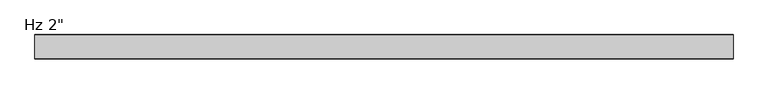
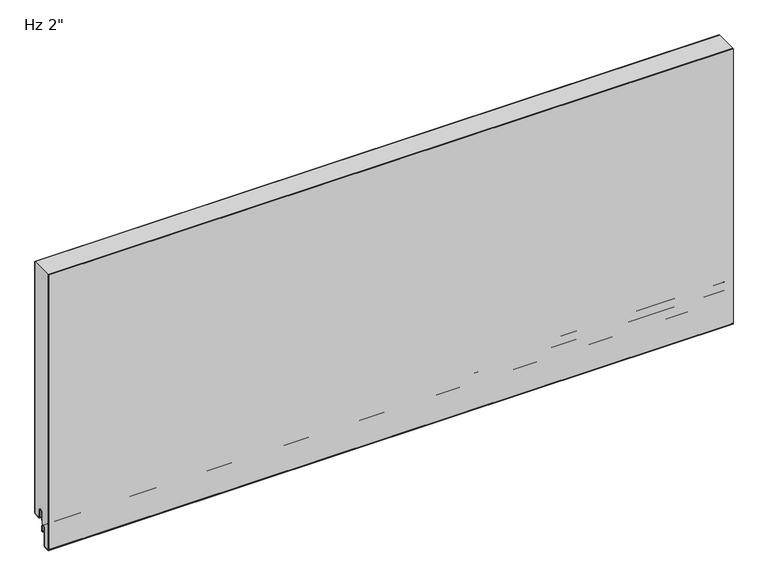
"""IFC4 building model written with IfcOpenShell, lengths in millimetres: plate geometry."""

from ifc_helpers import new_model, si_unit, point, frame, frame_2d, origin, place, context, project, spatial, polyline, circle_curve, trimmed, segment, composite_curve, outline, extrude, source, transform, mapped, element, save


def plate_7ae7a847(model_context):
    return source(origin(), model_context, "Body", "SweptSolid", [
        extrude(outline(composite_curve([segment(polyline([(-49.8, -50.6719361), (-49.8, 570.0), (-1.0, 570.0), (-1.0, 3.175)]), True, "CONTINUOUS"), segment(trimmed(circle_curve(frame_2d((-2.38125, 3.175)), 1.38125), [point((-1.0, 3.175))], [point((-2.38125, 1.79375))], False, "CARTESIAN"), True, "CONTINUOUS"), segment(polyline([(-2.38125, 1.79375), (-15.08125, 1.79375)]), True, "CONTINUOUS"), segment(trimmed(circle_curve(frame_2d((-15.08125, 3.175)), 1.38125), [point((-15.08125, 1.79375))], [point((-16.4625, 3.175))], False, "CARTESIAN"), True, "CONTINUOUS"), segment(polyline([(-16.4625, 3.175), (-16.4625, 19.05)]), True, "CONTINUOUS"), segment(trimmed(circle_curve(frame_2d((-21.43125, 19.05)), 4.96875), [point((-16.4625, 19.05))], [point((-26.4, 19.05))], True, "CARTESIAN"), True, "CONTINUOUS"), segment(polyline([(-26.4, 19.05), (-26.4, -6.9375), (-30.95625, -6.9375)]), True, "CONTINUOUS"), segment(trimmed(circle_curve(frame_2d((-30.95625, -11.90625)), 4.96875), [point((-30.95625, -6.9375))], [point((-35.925, -11.90625))], True, "CARTESIAN"), True, "CONTINUOUS"), segment(polyline([(-35.925, -11.90625), (-35.925, -50.0895546)]), True, "CONTINUOUS"), segment(trimmed(circle_curve(frame_2d((-37.30625, -50.0895546)), 1.38125), [point((-35.925, -50.0895546))], [point((-37.233961, -51.4689117))], False, "CARTESIAN"), True, "CONTINUOUS"), segment(polyline([(-37.233961, -51.4689117), (-48.346461, -52.0512931)]), True, "CONTINUOUS"), segment(trimmed(circle_curve(frame_2d((-48.41875, -50.6719361)), 1.38125), [point((-48.346461, -52.0512931))], [point((-49.8, -50.6719361))], False, "CARTESIAN"), True, "CONTINUOUS")], self_intersect=False)), frame((-730.0, 0.0, 0.0), z_axis=(1.0, 0.0, 0.0), x_axis=(0.0, 1.0, 0.0)), (0.0, 0.0, 1.0), 1460.0),
        extrude(outline(composite_curve([segment(polyline([(-25.4, 0.79375), (-26.4, 0.79375), (-26.4, 19.05)]), True, "CONTINUOUS"), segment(trimmed(circle_curve(frame_2d((-21.43125, 19.05)), 4.96875), [point((-26.4, 19.05))], [point((-16.4625, 19.05))], False, "CARTESIAN"), True, "CONTINUOUS"), segment(polyline([(-16.4625, 19.05), (-16.4625, 3.175)]), True, "CONTINUOUS"), segment(trimmed(circle_curve(frame_2d((-15.08125, 3.175)), 1.38125), [point((-16.4625, 3.175))], [point((-15.08125, 1.79375))], True, "CARTESIAN"), True, "CONTINUOUS"), segment(polyline([(-15.08125, 1.79375), (-2.38125, 1.79375)]), True, "CONTINUOUS"), segment(trimmed(circle_curve(frame_2d((-2.38125, 3.175)), 1.38125), [point((-2.38125, 1.79375))], [point((-1.0, 3.175))], True, "CARTESIAN"), True, "CONTINUOUS"), segment(polyline([(-1.0, 3.175), (-1.0, 570.0), (0.0, 570.0), (0.0, 3.175)]), True, "CONTINUOUS"), segment(trimmed(circle_curve(frame_2d((-2.38125, 3.175)), 2.38125), [point((0.0, 3.175))], [point((-2.38125, 0.79375))], False, "CARTESIAN"), True, "CONTINUOUS"), segment(polyline([(-2.38125, 0.79375), (-15.08125, 0.79375)]), True, "CONTINUOUS"), segment(trimmed(circle_curve(frame_2d((-15.08125, 3.175)), 2.38125), [point((-15.08125, 0.79375))], [point((-17.4625, 3.175))], False, "CARTESIAN"), True, "CONTINUOUS"), segment(polyline([(-17.4625, 3.175), (-17.4625, 19.05)]), True, "CONTINUOUS"), segment(trimmed(circle_curve(frame_2d((-21.43125, 19.05)), 3.96875), [point((-17.4625, 19.05))], [point((-25.4, 19.05))], True, "CARTESIAN"), True, "CONTINUOUS"), segment(polyline([(-25.4, 19.05), (-25.4, 0.79375)]), True, "CONTINUOUS")], self_intersect=False)), frame((-730.0, 0.0, 0.0), z_axis=(1.0, 0.0, 0.0), x_axis=(0.0, 1.0, 0.0)), (0.0, 0.0, 1.0), 1460.0),
        extrude(outline(composite_curve([segment(trimmed(circle_curve(frame_2d((-26.19375, -23.2314549)), 0.79375), [point((-25.4, -23.2314549))], [point((-26.9875, -23.2314549))], False, "CARTESIAN"), True, "CONTINUOUS"), segment(polyline([(-26.9875, -23.2314549), (-26.9875, -11.9205174)]), True, "CONTINUOUS"), segment(trimmed(circle_curve(frame_2d((-30.95625, -11.9205174)), 3.96875), [point((-26.9875, -11.9205174))], [point((-34.925, -11.9205174))], True, "CARTESIAN"), True, "CONTINUOUS"), segment(polyline([(-34.925, -11.9205174), (-34.925, -50.1038221)]), True, "CONTINUOUS"), segment(trimmed(circle_curve(frame_2d((-37.30625, -50.1038221)), 2.38125), [point((-34.925, -50.1038221))], [point((-37.181625, -52.4818086))], False, "CARTESIAN"), True, "CONTINUOUS"), segment(polyline([(-37.181625, -52.4818086), (-48.294125, -53.0641901)]), True, "CONTINUOUS"), segment(trimmed(circle_curve(frame_2d((-48.41875, -50.6862035)), 2.38125), [point((-48.294125, -53.0641901))], [point((-50.8, -50.6862035))], False, "CARTESIAN"), True, "CONTINUOUS"), segment(polyline([(-50.8, -50.6862035), (-50.8, 570.0), (-49.8, 570.0), (-49.8, -50.6862035)]), True, "CONTINUOUS"), segment(trimmed(circle_curve(frame_2d((-48.41875, -50.6862035)), 1.38125), [point((-49.8, -50.6862035))], [point((-48.346461, -52.0655606))], True, "CARTESIAN"), True, "CONTINUOUS"), segment(polyline([(-48.346461, -52.0655606), (-37.233961, -51.4831791)]), True, "CONTINUOUS"), segment(trimmed(circle_curve(frame_2d((-37.30625, -50.1038221)), 1.38125), [point((-37.233961, -51.4831791))], [point((-35.925, -50.1038221))], True, "CARTESIAN"), True, "CONTINUOUS"), segment(polyline([(-35.925, -50.1038221), (-35.925, -11.9205174)]), True, "CONTINUOUS"), segment(trimmed(circle_curve(frame_2d((-30.95625, -11.9205174)), 4.96875), [point((-35.925, -11.9205174))], [point((-25.9875, -11.9205174))], False, "CARTESIAN"), True, "CONTINUOUS"), segment(polyline([(-25.9875, -11.9205174), (-26.19375, -13.5080174), (-25.4, -13.5080174), (-25.4, -23.2314549)]), True, "CONTINUOUS")], self_intersect=False)), frame((-730.0, 0.0, 0.0), z_axis=(1.0, 0.0, 0.0), x_axis=(0.0, 1.0, 0.0)), (0.0, 0.0, 1.0), 1460.0),
    ])


if __name__ == "__main__":
    model = new_model("IFC4")
    model_context = context("Model", 3, world=origin())
    ifc_project = project(units=[si_unit("LENGTHUNIT", "METRE", prefix="MILLI")], contexts=[model_context])
    site = spatial("IfcSite", under=ifc_project)
    building = spatial("IfcBuilding", under=site)
    placement = place(None, origin())
    plate_shape = plate_7ae7a847(model_context)
    element("IfcPlate", 1, ObjectType="KIP-36-DWTR-R19-CP-Hz-F : Hz 2\"", at=placement, inside=building, context=model_context, shape_type="MappedRepresentation", body=[
        mapped(plate_shape, transform((0.0, 0.0, 0.0), x_axis=(1.0, 0.0, 0.0), y_axis=(0.0, 1.0, 0.0), z_axis=(0.0, 0.0, 1.0))),
    ])
    save(model, "model.ifc")
